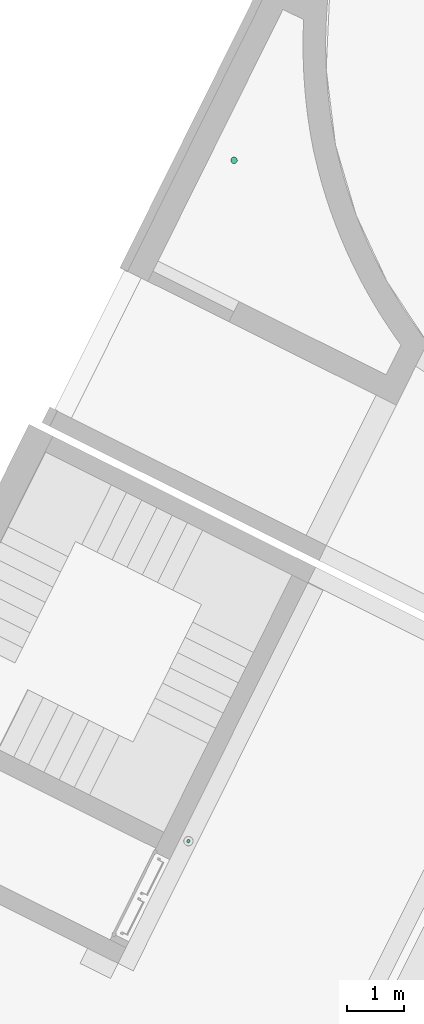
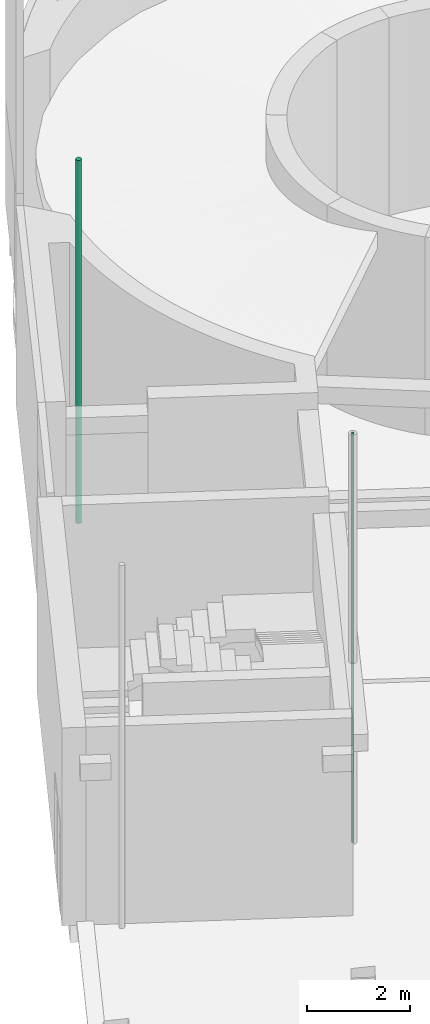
# One storey, part 68 of 91: 2 flow segments.
"""IFC2X3 building model written with IfcOpenShell, lengths in metres."""

from ifc_helpers import new_model, entity, si_unit, converted_unit, derived_unit, direction, frame, origin, origin_2d_with_axis, place, context, subcontext, project, spatial, circle, extrude, type_object, element, save


model = new_model("IFC2X3")

# Units and contexts
model_context = context("Model", 3, precision=1e-05, world=origin(), true_north=direction((0.894925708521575, 0.446215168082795)))
context_of_model = context(None, 3, precision=1e-05, world=origin(), true_north=direction((0.894925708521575, 0.446215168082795)))
body_context = subcontext(model_context, "Body", "Model", "MODEL_VIEW")
ifc_project = project(units=[si_unit("LENGTHUNIT", "METRE"), si_unit("AREAUNIT", "SQUARE_METRE"), si_unit("VOLUMEUNIT", "CUBIC_METRE"), converted_unit("PLANEANGLEUNIT", "DEGREE", entity("IfcRatioMeasure", 0.0174532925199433), si_unit("PLANEANGLEUNIT", "RADIAN"), dimensions=[0, 0, 0, 0, 0, 0, 0]), si_unit("MASSUNIT", "GRAM", prefix="KILO"), si_unit("TIMEUNIT", "SECOND"), si_unit("FREQUENCYUNIT", "HERTZ"), si_unit("THERMODYNAMICTEMPERATUREUNIT", "DEGREE_CELSIUS"), derived_unit("THERMALTRANSMITTANCEUNIT", [(si_unit("MASSUNIT", "GRAM", prefix="KILO"), 1), (si_unit("THERMODYNAMICTEMPERATUREUNIT", "KELVIN"), -1), (si_unit("TIMEUNIT", "SECOND"), -3)]), derived_unit("VOLUMETRICFLOWRATEUNIT", [(si_unit("LENGTHUNIT", "METRE"), 3), (si_unit("TIMEUNIT", "SECOND"), -1)]), si_unit("ELECTRICCURRENTUNIT", "AMPERE"), si_unit("ELECTRICVOLTAGEUNIT", "VOLT"), si_unit("POWERUNIT", "WATT"), si_unit("FORCEUNIT", "NEWTON", prefix="KILO"), si_unit("ILLUMINANCEUNIT", "LUX"), si_unit("LUMINOUSFLUXUNIT", "LUMEN"), si_unit("LUMINOUSINTENSITYUNIT", "CANDELA"), si_unit("PRESSUREUNIT", "PASCAL")], contexts=[model_context, context_of_model])

# Site, building, storey
site_placement = place(None, frame((218.228324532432, 584.720189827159, 0.0), z_axis=(0.0, 0.0, 1.0), x_axis=(0.446215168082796, 0.894925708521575, 0.0)))
site = spatial("IfcSite", under=ifc_project, at=site_placement, Name="Default", CompositionType="ELEMENT")
building_placement = place(site_placement, origin())
building = spatial("IfcBuilding", under=site, at=building_placement, CompositionType="ELEMENT")
storey_placement = place(building_placement, origin())
storey = spatial("IfcBuildingStorey", under=building, at=storey_placement, Name="0 - Piano Terra", CompositionType="ELEMENT", Elevation=0.0)

# Flow segments
pipe_segment_type_1 = type_object("IfcPipeSegmentType", Name="Tubazione:Pluviale-Tubazione", PredefinedType="NOTDEFINED")
flow_segment_1_placement = place(storey_placement, frame((64.5714343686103, 5.24017573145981, 0.0)))
element("IfcFlowSegment", 1, at=flow_segment_1_placement, inside=storey, type_object=pipe_segment_type_1, Name="Tubazione:Pluviale-Tubazione", ObjectType="Tubazione:Pluviale-Tubazione", context=body_context, shape_type="SweptSolid", body=[
    extrude(circle(Radius=0.05715, at=origin_2d_with_axis()), frame((0.0587452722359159, 0.0587452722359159, 0.0)), (0.0, 0.0, 1.0), 8.61),
])
pipe_segment_type_2 = type_object("IfcPipeSegmentType", Name="Tubazione:Antincendio-Tubazione", PredefinedType="NOTDEFINED")
flow_segment_2_placement = place(storey_placement, frame((53.4641792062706, 0.617163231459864, 0.0)))
element("IfcFlowSegment", 2, at=flow_segment_2_placement, inside=storey, type_object=pipe_segment_type_2, Name="Tubazione:Antincendio-Tubazione", ObjectType="Tubazione:Antincendio-Tubazione", context=body_context, shape_type="SweptSolid", body=[
    extrude(circle(Radius=0.0301625, at=origin_2d_with_axis()), frame((0.0317577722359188, 0.0317577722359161, 0.0)), (0.0, 0.0, 1.0), 9.7),
])

save(model, "model.ifc")
